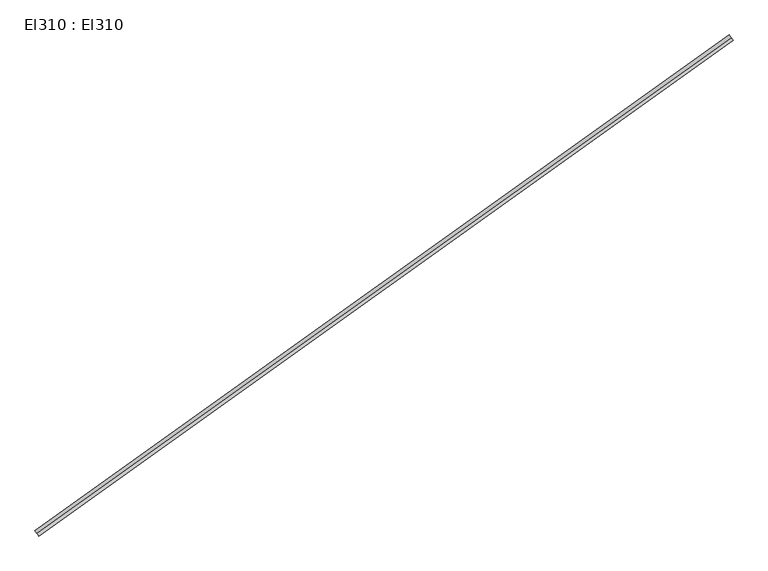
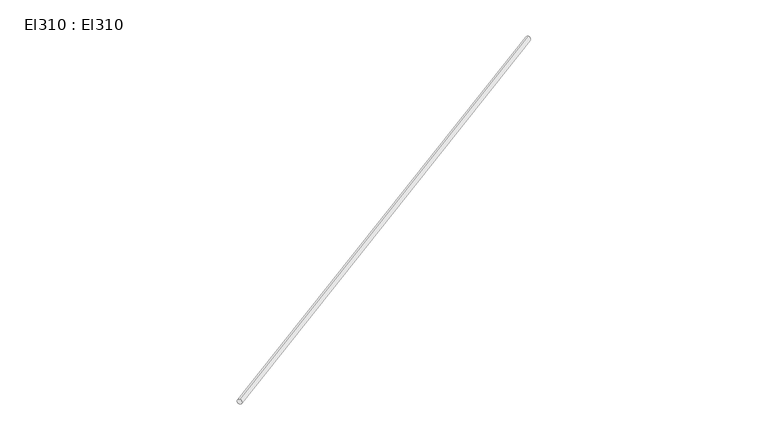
"""IFC4 building model written with IfcOpenShell, lengths in millimetres: cable carrier segment geometry, El310 : El310."""

from ifc_helpers import new_model, si_unit, point, frame, frame_2d, origin, place, context, project, spatial, circle_curve, trimmed, segment, composite_curve, outline, extrude, source, transform, mapped, element, save


def el310_el310_f61202d5(model_context):
    return source(origin(), model_context, "Body", "SweptSolid", [
        extrude(outline(composite_curve([segment(trimmed(circle_curve(frame_2d((0.0, -9.5)), 9.5), [point((0.0, -19.0))], [point((0.0, 0.0))], False, "CARTESIAN"), True, "CONTINUOUS"), segment(trimmed(circle_curve(frame_2d((0.0, -9.5)), 9.5), [point((0.0, 0.0))], [point((0.0, -19.0))], False, "CARTESIAN"), True, "CONTINUOUS")], self_intersect=False)), frame((25675.25, 14766.295, 2959.5), z_axis=(0.8138658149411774, 0.5810528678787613, 0.0), x_axis=(-0.5810528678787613, 0.8138658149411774, 0.0)), (0.0, 0.0, 1.0), 2373.98),
    ])


if __name__ == "__main__":
    model = new_model("IFC4")
    model_context = context("Model", 3, world=origin())
    ifc_project = project(units=[si_unit("LENGTHUNIT", "METRE", prefix="MILLI")], contexts=[model_context])
    site = spatial("IfcSite", under=ifc_project)
    building = spatial("IfcBuilding", under=site)
    placement = place(None, origin())
    el310_el310_shape = el310_el310_f61202d5(model_context)
    element("IfcCableCarrierSegment", 1, ObjectType="El310 : El310", at=placement, inside=building, context=model_context, shape_type="MappedRepresentation", body=[
        mapped(el310_el310_shape, transform((0.0, 0.0, 0.0), x_axis=(1.0, 0.0, 0.0), y_axis=(0.0, 1.0, 0.0), z_axis=(0.0, 0.0, 1.0))),
    ])
    save(model, "model.ifc")
